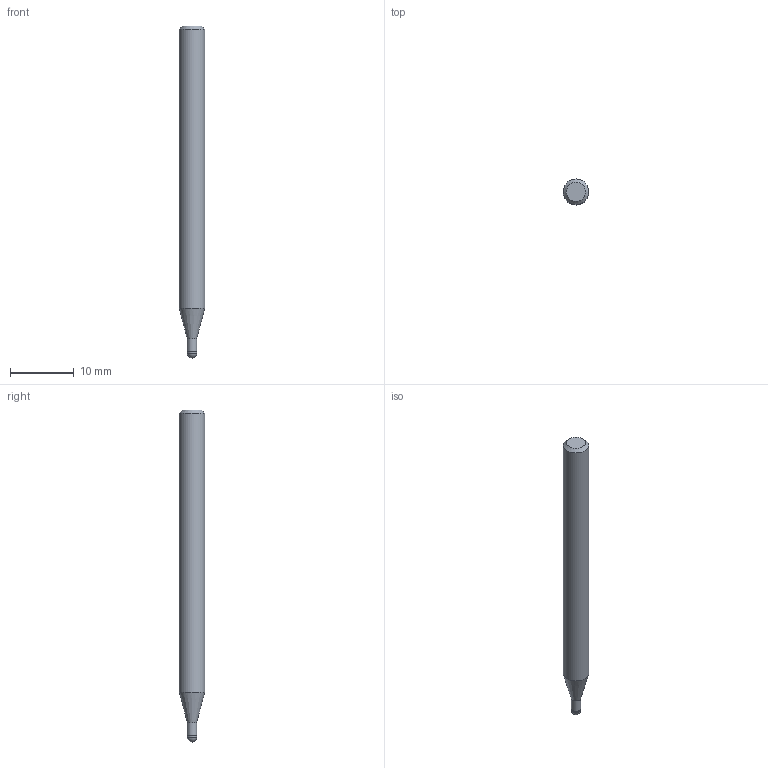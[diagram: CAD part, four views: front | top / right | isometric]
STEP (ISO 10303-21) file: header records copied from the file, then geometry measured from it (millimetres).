
FILE_DESCRIPTION((''),'2;1');
FILE_NAME('C:\Users\nsx150\AppData\Local\Temp\Mastercam 2021\LJSIDMOTM8\TEMP.step','2021-08-03T14:23:09',(''),(''),'STEP Write','Mastercam 2021 ... CNC Software, Inc.','');
FILE_SCHEMA(('AUTOMOTIVE_DESIGN'));
Length unit declared in the file: millimetre
Products named in the file (1): None
Bounding box: 4 x 4 x 52 mm (x, y, z)
Volume: 588.9 mm3; surface area: 623.9 mm2
Topology: 2 solids, 2 shells, 9 faces, 14 edges, 8 vertices
Faces by surface type: plane 3, cylinder 3, cone 2, sphere 1
Full cylindrical faces by diameter (mm): 1.45 x1, 1.5 x1, 4 x1
Entity records: 211 total; most frequent: DIRECTION 36, CARTESIAN_POINT 25, AXIS2_PLACEMENT_3D 18, ORIENTED_EDGE 14, EDGE_LOOP 14, STYLED_ITEM 12, ADVANCED_FACE 9, FACE_BOUND 8
